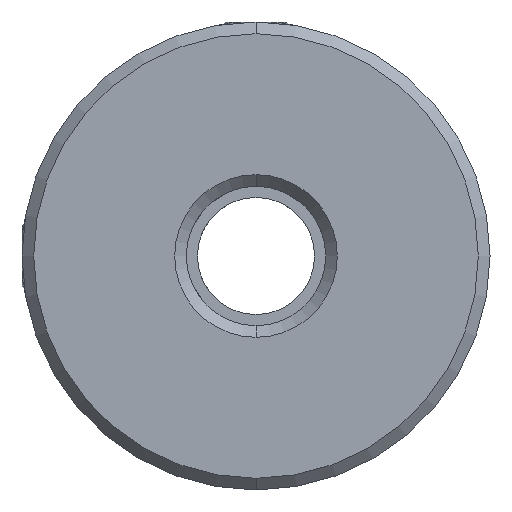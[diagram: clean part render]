
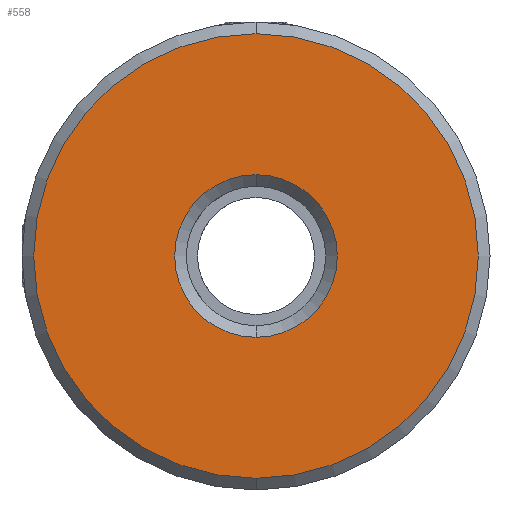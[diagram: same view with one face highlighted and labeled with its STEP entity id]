
A CAD part, front view. The second image highlights one B-rep face of the part: STEP entity #558.
In plain terms, the highlighted planar face has unit normal (0, -1, 0).
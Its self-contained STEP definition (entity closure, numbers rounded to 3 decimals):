
#27 = CARTESIAN_POINT ( 'NONE',  ( -10.188, -0.277, -15.154 ) ) ;
#422 = ORIENTED_EDGE ( 'NONE', *, *, #2739, .T. ) ;
#488 = CARTESIAN_POINT ( 'NONE',  ( -10.188, -0.277, 0.046 ) ) ;
#546 = CIRCLE ( 'NONE', #1640, 15.2 ) ;
#558 = ADVANCED_FACE ( 'NONE', ( #1100, #1918 ), #2273, .F. ) ;
#619 = CARTESIAN_POINT ( 'NONE',  ( -10.188, -0.277, 0.046 ) ) ;
#659 = EDGE_CURVE ( 'NONE', #3210, #961, #546, .T. ) ;
#694 = EDGE_CURVE ( 'NONE', #3045, #2625, #1400, .T. ) ;
#921 = DIRECTION ( 'NONE',  ( 0., -1., 0. ) ) ;
#940 = ORIENTED_EDGE ( 'NONE', *, *, #694, .T. ) ;
#961 = VERTEX_POINT ( 'NONE', #27 ) ;
#1034 = AXIS2_PLACEMENT_3D ( 'NONE', #619, #1431, #2587 ) ;
#1100 = FACE_OUTER_BOUND ( 'NONE', #2244, .T. ) ;
#1270 = CARTESIAN_POINT ( 'NONE',  ( -10.188, -0.277, 0.046 ) ) ;
#1276 = CIRCLE ( 'NONE', #3390, 15.2 ) ;
#1333 = CARTESIAN_POINT ( 'NONE',  ( -10.188, -0.277, 0.046 ) ) ;
#1368 = CIRCLE ( 'NONE', #3671, 5.562 ) ;
#1400 = CIRCLE ( 'NONE', #1034, 5.562 ) ;
#1431 = DIRECTION ( 'NONE',  ( 0., 1., 0. ) ) ;
#1508 = CARTESIAN_POINT ( 'NONE',  ( -10.188, -0.277, 5.608 ) ) ;
#1563 = CARTESIAN_POINT ( 'NONE',  ( -10.188, -0.277, -5.517 ) ) ;
#1640 = AXIS2_PLACEMENT_3D ( 'NONE', #1333, #921, #2081 ) ;
#1679 = DIRECTION ( 'NONE',  ( 0., -1., 0. ) ) ;
#1707 = EDGE_LOOP ( 'NONE', ( #940, #422 ) ) ;
#1918 = FACE_BOUND ( 'NONE', #1707, .T. ) ;
#1944 = CARTESIAN_POINT ( 'NONE',  ( -10.188, -0.277, 15.246 ) ) ;
#2081 = DIRECTION ( 'NONE',  ( 0., 0., 1. ) ) ;
#2234 = DIRECTION ( 'NONE',  ( 0., 0., 1. ) ) ;
#2244 = EDGE_LOOP ( 'NONE', ( #3413, #3610 ) ) ;
#2273 = PLANE ( 'NONE',  #2702 ) ;
#2587 = DIRECTION ( 'NONE',  ( 0., 0., 1. ) ) ;
#2625 = VERTEX_POINT ( 'NONE', #1508 ) ;
#2702 = AXIS2_PLACEMENT_3D ( 'NONE', #488, #3079, #2234 ) ;
#2720 = DIRECTION ( 'NONE',  ( 0., 1., 0. ) ) ;
#2739 = EDGE_CURVE ( 'NONE', #2625, #3045, #1368, .T. ) ;
#2835 = DIRECTION ( 'NONE',  ( 0., 0., 1. ) ) ;
#3045 = VERTEX_POINT ( 'NONE', #1563 ) ;
#3079 = DIRECTION ( 'NONE',  ( 0., 1., 0. ) ) ;
#3210 = VERTEX_POINT ( 'NONE', #1944 ) ;
#3238 = EDGE_CURVE ( 'NONE', #961, #3210, #1276, .T. ) ;
#3390 = AXIS2_PLACEMENT_3D ( 'NONE', #3706, #1679, #2835 ) ;
#3413 = ORIENTED_EDGE ( 'NONE', *, *, #659, .T. ) ;
#3583 = DIRECTION ( 'NONE',  ( 0., 0., 1. ) ) ;
#3610 = ORIENTED_EDGE ( 'NONE', *, *, #3238, .T. ) ;
#3671 = AXIS2_PLACEMENT_3D ( 'NONE', #1270, #2720, #3583 ) ;
#3706 = CARTESIAN_POINT ( 'NONE',  ( -10.188, -0.277, 0.046 ) ) ;
